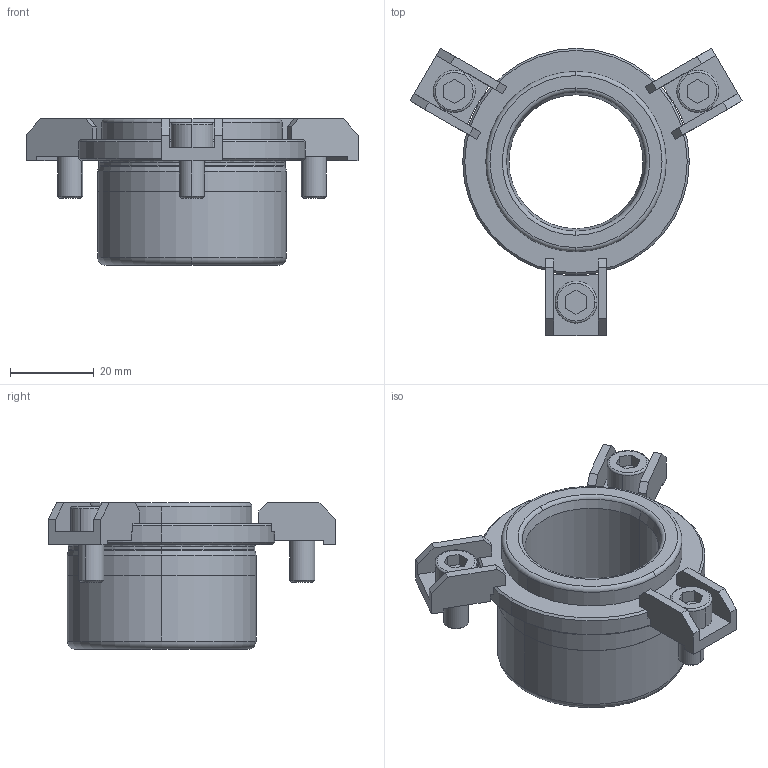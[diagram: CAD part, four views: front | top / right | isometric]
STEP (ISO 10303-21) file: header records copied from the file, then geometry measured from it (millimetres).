
FILE_DESCRIPTION((''),'2;1');
FILE_NAME('B42_025_020.stp','2008-11-04T14:20:12',(''),(''),'Mechanical Desktop 2009','Mechanical Desktop 2009',', , ');
FILE_SCHEMA(('CONFIG_CONTROL_DESIGN'));
Length unit declared in the file: millimetre
Products named in the file (2): Product; blmdl1
Assembly tree (1 placements, depth 2):
  Product
    blmdl1
Bounding box: 79.13 x 68.53 x 35 mm (x, y, z)
Volume: 34551.7 mm3; surface area: 16147.3 mm2
Topology: 7 solids, 7 shells, 185 faces, 474 edges, 312 vertices
Faces by surface type: plane 104, cylinder 39, cone 18, torus 14, bspline 10
Entity records: 6165 total; most frequent: CARTESIAN_POINT 1413, DIRECTION 1008, ORIENTED_EDGE 948, EDGE_CURVE 474, AXIS2_PLACEMENT_3D 357, VERTEX_POINT 312, VECTOR 294, LINE 294
